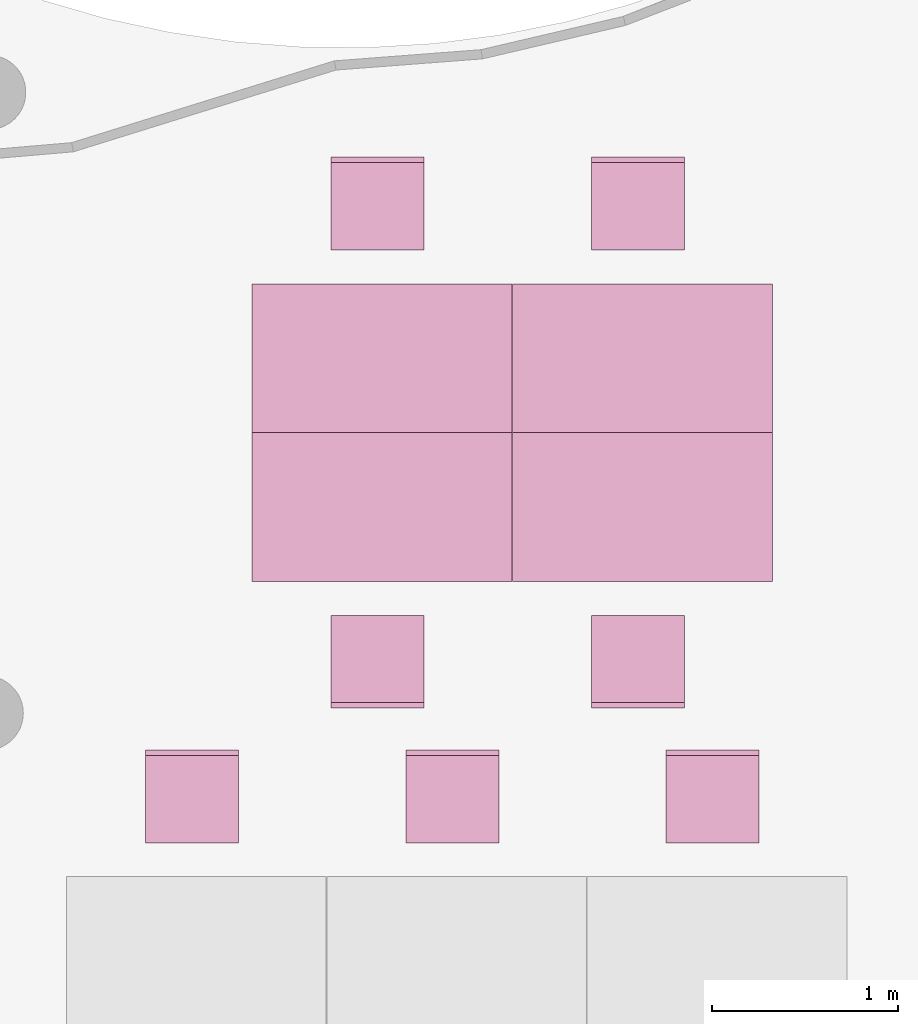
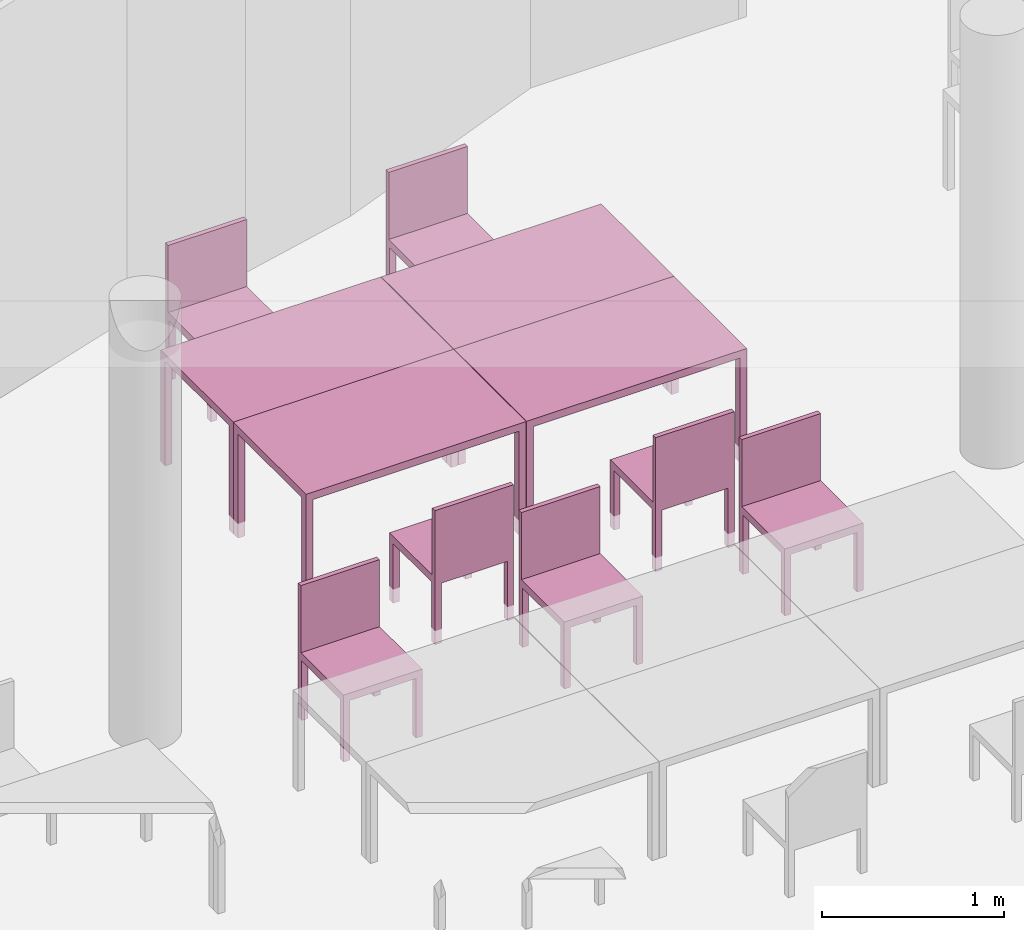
"""IFC4 building model written with IfcOpenShell, lengths in metres."""

from ifc_helpers import new_model, entity, si_unit, converted_unit, derived_unit, frame, origin, place, context, subcontext, project, spatial, faceted_brep, element, save


model = new_model("IFC4")

# Units and contexts
model_context = context("Model", 3, precision=1e-05, world=origin())
body_context = subcontext(model_context, "Body", "Model", "MODEL_VIEW")
ifc_project = project(units=[si_unit("LENGTHUNIT", "METRE"), si_unit("AREAUNIT", "SQUARE_METRE"), si_unit("VOLUMEUNIT", "CUBIC_METRE"), si_unit("MASSUNIT", "GRAM", prefix="KILO"), converted_unit("PLANEANGLEUNIT", "DEGREE", entity("IfcPlaneAngleMeasure", 0.0174532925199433), si_unit("PLANEANGLEUNIT", "RADIAN"), dimensions=[0, 0, 0, 0, 0, 0, 0]), derived_unit("THERMALTRANSMITTANCEUNIT", [(si_unit("POWERUNIT", "WATT"), 1), (si_unit("THERMODYNAMICTEMPERATUREUNIT", "KELVIN"), -1), (si_unit("LENGTHUNIT", "METRE"), -2)]), derived_unit("VOLUMETRICFLOWRATEUNIT", [(si_unit("LENGTHUNIT", "METRE"), 3), (converted_unit("TIMEUNIT", "hour", entity("IfcTimeMeasure", 3600.0), si_unit("TIMEUNIT", "SECOND"), dimensions=[0, 0, 1, 0, 0, 0, 0]), -1), (si_unit("LENGTHUNIT", "METRE"), -1)])], contexts=[model_context])

# Building, storeys
building_placement = place(None, origin())
building = spatial("IfcBuilding", under=ifc_project, at=building_placement, Name="HABITATGE PLURIFAMILIAR", CompositionType="ELEMENT")
storey_1_placement = place(building_placement, frame((0.0, 0.0, 15.28)))
storey_1 = spatial("IfcBuildingStorey", under=building, at=storey_1_placement, Name="PLANTA QUARTA", CompositionType="ELEMENT", Elevation=15.28)
storey_2_placement = place(storey_1_placement, frame((0.0, 0.0, 12.27)))
storey_2 = spatial("IfcBuildingStorey", under=storey_1, at=storey_2_placement, Name="NOU", CompositionType="PARTIAL")

# Furniture
furniture_1_placement = place(storey_2_placement, frame((412.164536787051, 18.5085148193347, -12.3699999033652)))
element("IfcFurniture", 1, at=furniture_1_placement, inside=storey_2, Name="Taula 140X80_P4", context=body_context, shape_type="Brep", body=[
    faceted_brep([(0.04375, 0.750069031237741, 0.0), (0.04375, 0.800069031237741, 0.0), (0.0, 0.800069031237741, 0.0), (0.0, 0.750069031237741, 0.0), (0.04375, 0.800069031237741, 0.7), (0.04375, 0.750069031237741, 0.7), (0.0, 0.750069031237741, 0.7), (0.0, 0.800069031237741, 0.7)], [[[0, 1, 2, 3]], [[4, 5, 6, 7]], [[1, 0, 5, 4]], [[2, 1, 4, 7]], [[3, 2, 7, 6]], [[0, 3, 6, 5]]], orient=[[False], [False], [False], [False], [False], [False]]),
    faceted_brep([(0.04375, 0.0, 0.0), (0.04375, 0.05, 0.0), (0.0, 0.05, 0.0), (0.0, 0.0, 0.0), (0.04375, 0.05, 0.7), (0.04375, 0.0, 0.7), (0.0, 0.0, 0.7), (0.0, 0.05, 0.7)], [[[0, 1, 2, 3]], [[4, 5, 6, 7]], [[1, 0, 5, 4]], [[2, 1, 4, 7]], [[3, 2, 7, 6]], [[0, 3, 6, 5]]], orient=[[False], [False], [False], [False], [False], [False]]),
    faceted_brep([(1.39732768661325, 0.0, 0.7), (1.39732768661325, 0.800069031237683, 0.7), (0.0, 0.800069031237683, 0.7), (0.0, 0.0, 0.7), (1.39732768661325, 0.800069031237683, 0.75), (1.39732768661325, 0.0, 0.75), (0.0, 0.0, 0.75), (0.0, 0.800069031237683, 0.75)], [[[0, 1, 2, 3]], [[4, 5, 6, 7]], [[1, 0, 5, 4]], [[2, 1, 4, 7]], [[3, 2, 7, 6]], [[0, 3, 6, 5]]], orient=[[False], [False], [False], [False], [False], [False]]),
    faceted_brep([(1.39732768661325, 0.750069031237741, 0.0), (1.39732768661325, 0.800069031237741, 0.0), (1.35357768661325, 0.800069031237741, 0.0), (1.35357768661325, 0.750069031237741, 0.0), (1.39732768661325, 0.800069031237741, 0.7), (1.39732768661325, 0.750069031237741, 0.7), (1.35357768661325, 0.750069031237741, 0.7), (1.35357768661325, 0.800069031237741, 0.7)], [[[0, 1, 2, 3]], [[4, 5, 6, 7]], [[1, 0, 5, 4]], [[2, 1, 4, 7]], [[3, 2, 7, 6]], [[0, 3, 6, 5]]], orient=[[False], [False], [False], [False], [False], [False]]),
    faceted_brep([(1.39732768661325, 0.0, 0.0), (1.39732768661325, 0.05, 0.0), (1.35357768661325, 0.05, 0.0), (1.35357768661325, 0.0, 0.0), (1.39732768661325, 0.05, 0.7), (1.39732768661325, 0.0, 0.7), (1.35357768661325, 0.0, 0.7), (1.35357768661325, 0.05, 0.7)], [[[0, 1, 2, 3]], [[4, 5, 6, 7]], [[1, 0, 5, 4]], [[2, 1, 4, 7]], [[3, 2, 7, 6]], [[0, 3, 6, 5]]], orient=[[False], [False], [False], [False], [False], [False]]),
])
furniture_2_placement = place(storey_2_placement, frame((413.565715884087, 18.5085148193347, -12.3699999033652)))
element("IfcFurniture", 2, at=furniture_2_placement, inside=storey_2, Name="Taula 140X80_P4", context=body_context, shape_type="Brep", body=[
    faceted_brep([(0.04375, 0.750069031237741, 0.0), (0.04375, 0.800069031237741, 0.0), (0.0, 0.800069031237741, 0.0), (0.0, 0.750069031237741, 0.0), (0.04375, 0.800069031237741, 0.7), (0.04375, 0.750069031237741, 0.7), (0.0, 0.750069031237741, 0.7), (0.0, 0.800069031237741, 0.7)], [[[0, 1, 2, 3]], [[4, 5, 6, 7]], [[1, 0, 5, 4]], [[2, 1, 4, 7]], [[3, 2, 7, 6]], [[0, 3, 6, 5]]], orient=[[False], [False], [False], [False], [False], [False]]),
    faceted_brep([(0.04375, 0.0, 0.0), (0.04375, 0.05, 0.0), (0.0, 0.05, 0.0), (0.0, 0.0, 0.0), (0.04375, 0.05, 0.7), (0.04375, 0.0, 0.7), (0.0, 0.0, 0.7), (0.0, 0.05, 0.7)], [[[0, 1, 2, 3]], [[4, 5, 6, 7]], [[1, 0, 5, 4]], [[2, 1, 4, 7]], [[3, 2, 7, 6]], [[0, 3, 6, 5]]], orient=[[False], [False], [False], [False], [False], [False]]),
    faceted_brep([(1.39732768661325, 0.0, 0.7), (1.39732768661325, 0.800069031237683, 0.7), (0.0, 0.800069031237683, 0.7), (0.0, 0.0, 0.7), (1.39732768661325, 0.800069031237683, 0.75), (1.39732768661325, 0.0, 0.75), (0.0, 0.0, 0.75), (0.0, 0.800069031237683, 0.75)], [[[0, 1, 2, 3]], [[4, 5, 6, 7]], [[1, 0, 5, 4]], [[2, 1, 4, 7]], [[3, 2, 7, 6]], [[0, 3, 6, 5]]], orient=[[False], [False], [False], [False], [False], [False]]),
    faceted_brep([(1.39732768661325, 0.750069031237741, 0.0), (1.39732768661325, 0.800069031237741, 0.0), (1.35357768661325, 0.800069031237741, 0.0), (1.35357768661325, 0.750069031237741, 0.0), (1.39732768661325, 0.800069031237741, 0.7), (1.39732768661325, 0.750069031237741, 0.7), (1.35357768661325, 0.750069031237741, 0.7), (1.35357768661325, 0.800069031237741, 0.7)], [[[0, 1, 2, 3]], [[4, 5, 6, 7]], [[1, 0, 5, 4]], [[2, 1, 4, 7]], [[3, 2, 7, 6]], [[0, 3, 6, 5]]], orient=[[False], [False], [False], [False], [False], [False]]),
    faceted_brep([(1.39732768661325, 0.0, 0.0), (1.39732768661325, 0.05, 0.0), (1.35357768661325, 0.05, 0.0), (1.35357768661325, 0.0, 0.0), (1.39732768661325, 0.05, 0.7), (1.39732768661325, 0.0, 0.7), (1.35357768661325, 0.0, 0.7), (1.35357768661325, 0.05, 0.7)], [[[0, 1, 2, 3]], [[4, 5, 6, 7]], [[1, 0, 5, 4]], [[2, 1, 4, 7]], [[3, 2, 7, 6]], [[0, 3, 6, 5]]], orient=[[False], [False], [False], [False], [False], [False]]),
])
furniture_3_placement = place(storey_2_placement, frame((413.565715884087, 19.3085838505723, -12.3699999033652)))
element("IfcFurniture", 3, at=furniture_3_placement, inside=storey_2, Name="Taula 140X80_P4", context=body_context, shape_type="Brep", body=[
    faceted_brep([(0.04375, 0.05, 0.0), (0.0, 0.05, 0.0), (0.0, 0.0, 0.0), (0.04375, 0.0, 0.0), (0.04375, 0.0, 0.7), (0.0, 0.0, 0.7), (0.0, 0.05, 0.7), (0.04375, 0.05, 0.7)], [[[0, 1, 2, 3]], [[4, 5, 6, 7]], [[3, 4, 7, 0]], [[2, 5, 4, 3]], [[1, 6, 5, 2]], [[0, 7, 6, 1]]], orient=[[False], [False], [False], [False], [False], [False]]),
    faceted_brep([(0.04375, 0.800069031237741, 0.0), (0.0, 0.800069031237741, 0.0), (0.0, 0.750069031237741, 0.0), (0.04375, 0.750069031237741, 0.0), (0.04375, 0.750069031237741, 0.7), (0.0, 0.750069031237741, 0.7), (0.0, 0.800069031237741, 0.7), (0.04375, 0.800069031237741, 0.7)], [[[0, 1, 2, 3]], [[4, 5, 6, 7]], [[3, 4, 7, 0]], [[2, 5, 4, 3]], [[1, 6, 5, 2]], [[0, 7, 6, 1]]], orient=[[False], [False], [False], [False], [False], [False]]),
    faceted_brep([(1.39732768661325, 0.800069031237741, 0.7), (0.0, 0.800069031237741, 0.7), (0.0, 0.0, 0.7), (1.39732768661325, 0.0, 0.7), (1.39732768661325, 0.0, 0.75), (0.0, 0.0, 0.75), (0.0, 0.800069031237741, 0.75), (1.39732768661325, 0.800069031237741, 0.75)], [[[0, 1, 2, 3]], [[4, 5, 6, 7]], [[3, 4, 7, 0]], [[2, 5, 4, 3]], [[1, 6, 5, 2]], [[0, 7, 6, 1]]], orient=[[False], [False], [False], [False], [False], [False]]),
    faceted_brep([(1.39732768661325, 0.05, 0.0), (1.35357768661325, 0.05, 0.0), (1.35357768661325, 0.0, 0.0), (1.39732768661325, 0.0, 0.0), (1.39732768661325, 0.0, 0.7), (1.35357768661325, 0.0, 0.7), (1.35357768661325, 0.05, 0.7), (1.39732768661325, 0.05, 0.7)], [[[0, 1, 2, 3]], [[4, 5, 6, 7]], [[3, 4, 7, 0]], [[2, 5, 4, 3]], [[1, 6, 5, 2]], [[0, 7, 6, 1]]], orient=[[False], [False], [False], [False], [False], [False]]),
    faceted_brep([(1.39732768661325, 0.800069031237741, 0.0), (1.35357768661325, 0.800069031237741, 0.0), (1.35357768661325, 0.750069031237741, 0.0), (1.39732768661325, 0.750069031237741, 0.0), (1.39732768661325, 0.750069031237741, 0.7), (1.35357768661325, 0.750069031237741, 0.7), (1.35357768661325, 0.800069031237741, 0.7), (1.39732768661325, 0.800069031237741, 0.7)], [[[0, 1, 2, 3]], [[4, 5, 6, 7]], [[3, 4, 7, 0]], [[2, 5, 4, 3]], [[1, 6, 5, 2]], [[0, 7, 6, 1]]], orient=[[False], [False], [False], [False], [False], [False]]),
])
furniture_4_placement = place(storey_2_placement, frame((412.164536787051, 19.3085838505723, -12.3699999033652)))
element("IfcFurniture", 4, at=furniture_4_placement, inside=storey_2, Name="Taula 140X80_P4", context=body_context, shape_type="Brep", body=[
    faceted_brep([(0.04375, 0.05, 0.0), (0.0, 0.05, 0.0), (0.0, 0.0, 0.0), (0.04375, 0.0, 0.0), (0.04375, 0.0, 0.7), (0.0, 0.0, 0.7), (0.0, 0.05, 0.7), (0.04375, 0.05, 0.7)], [[[0, 1, 2, 3]], [[4, 5, 6, 7]], [[3, 4, 7, 0]], [[2, 5, 4, 3]], [[1, 6, 5, 2]], [[0, 7, 6, 1]]], orient=[[False], [False], [False], [False], [False], [False]]),
    faceted_brep([(0.04375, 0.800069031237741, 0.0), (0.0, 0.800069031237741, 0.0), (0.0, 0.750069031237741, 0.0), (0.04375, 0.750069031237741, 0.0), (0.04375, 0.750069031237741, 0.7), (0.0, 0.750069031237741, 0.7), (0.0, 0.800069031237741, 0.7), (0.04375, 0.800069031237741, 0.7)], [[[0, 1, 2, 3]], [[4, 5, 6, 7]], [[3, 4, 7, 0]], [[2, 5, 4, 3]], [[1, 6, 5, 2]], [[0, 7, 6, 1]]], orient=[[False], [False], [False], [False], [False], [False]]),
    faceted_brep([(1.39732768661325, 0.800069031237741, 0.7), (0.0, 0.800069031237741, 0.7), (0.0, 0.0, 0.7), (1.39732768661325, 0.0, 0.7), (1.39732768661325, 0.0, 0.75), (0.0, 0.0, 0.75), (0.0, 0.800069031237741, 0.75), (1.39732768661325, 0.800069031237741, 0.75)], [[[0, 1, 2, 3]], [[4, 5, 6, 7]], [[3, 4, 7, 0]], [[2, 5, 4, 3]], [[1, 6, 5, 2]], [[0, 7, 6, 1]]], orient=[[False], [False], [False], [False], [False], [False]]),
    faceted_brep([(1.39732768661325, 0.05, 0.0), (1.35357768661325, 0.05, 0.0), (1.35357768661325, 0.0, 0.0), (1.39732768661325, 0.0, 0.0), (1.39732768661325, 0.0, 0.7), (1.35357768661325, 0.0, 0.7), (1.35357768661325, 0.05, 0.7), (1.39732768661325, 0.05, 0.7)], [[[0, 1, 2, 3]], [[4, 5, 6, 7]], [[3, 4, 7, 0]], [[2, 5, 4, 3]], [[1, 6, 5, 2]], [[0, 7, 6, 1]]], orient=[[False], [False], [False], [False], [False], [False]]),
    faceted_brep([(1.39732768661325, 0.800069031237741, 0.0), (1.35357768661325, 0.800069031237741, 0.0), (1.35357768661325, 0.750069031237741, 0.0), (1.39732768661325, 0.750069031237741, 0.0), (1.39732768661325, 0.750069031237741, 0.7), (1.35357768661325, 0.750069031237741, 0.7), (1.35357768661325, 0.800069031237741, 0.7), (1.39732768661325, 0.800069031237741, 0.7)], [[[0, 1, 2, 3]], [[4, 5, 6, 7]], [[3, 4, 7, 0]], [[2, 5, 4, 3]], [[1, 6, 5, 2]], [[0, 7, 6, 1]]], orient=[[False], [False], [False], [False], [False], [False]]),
])
furniture_5_placement = place(storey_2_placement, frame((412.991699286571, 17.1018108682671, -12.3640610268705)))
element("IfcFurniture", 5, at=furniture_5_placement, inside=storey_2, Name="Cadira d'Oficina_P4", context=body_context, shape_type="Brep", body=[
    faceted_brep([(0.5, 0.0, 0.399999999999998), (0.5, 0.500000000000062, 0.399999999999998), (0.0, 0.5, 0.399999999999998), (0.0, 0.0, 0.399999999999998), (0.5, 0.500000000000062, 0.449999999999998), (0.5, 0.0, 0.449999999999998), (0.0, 0.0, 0.449999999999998), (0.0, 0.5, 0.449999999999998)], [[[0, 1, 2, 3]], [[4, 5, 6, 7]], [[1, 0, 5, 4]], [[2, 1, 4, 7]], [[3, 2, 7, 6]], [[0, 3, 6, 5]]], orient=[[False], [False], [False], [False], [False], [False]]),
    faceted_brep([(0.0, 0.46, 0.0), (0.04, 0.46, 0.0), (0.04, 0.5, 0.0), (0.0, 0.5, 0.0), (0.04, 0.46, 0.4), (0.0, 0.46, 0.4), (0.0, 0.5, 0.4), (0.04, 0.5, 0.4)], [[[0, 1, 2, 3]], [[4, 5, 6, 7]], [[1, 0, 5, 4]], [[2, 1, 4, 7]], [[3, 2, 7, 6]], [[0, 3, 6, 5]]], orient=[[False], [False], [False], [False], [False], [False]]),
    faceted_brep([(0.0, 0.0, 0.0), (0.04, 0.0, 0.0), (0.04, 0.04, 0.0), (0.0, 0.04, 0.0), (0.04, 0.0, 0.4), (0.0, 0.0, 0.4), (0.0, 0.04, 0.4), (0.04, 0.04, 0.4)], [[[0, 1, 2, 3]], [[4, 5, 6, 7]], [[1, 0, 5, 4]], [[2, 1, 4, 7]], [[3, 2, 7, 6]], [[0, 3, 6, 5]]], orient=[[False], [False], [False], [False], [False], [False]]),
    faceted_brep([(0.46, 0.460000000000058, 0.0), (0.5, 0.460000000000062, 0.0), (0.5, 0.500000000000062, 0.0), (0.46, 0.500000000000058, 0.0), (0.5, 0.460000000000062, 0.4), (0.46, 0.460000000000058, 0.4), (0.46, 0.500000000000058, 0.4), (0.5, 0.500000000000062, 0.4)], [[[0, 1, 2, 3]], [[4, 5, 6, 7]], [[1, 0, 5, 4]], [[2, 1, 4, 7]], [[3, 2, 7, 6]], [[0, 3, 6, 5]]], orient=[[False], [False], [False], [False], [False], [False]]),
    faceted_brep([(0.46, 0.0, 0.0), (0.5, 0.0, 0.0), (0.5, 0.0400000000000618, 0.0), (0.46, 0.0400000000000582, 0.0), (0.5, 0.0, 0.4), (0.46, 0.0, 0.4), (0.46, 0.0400000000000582, 0.4), (0.5, 0.0400000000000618, 0.4)], [[[0, 1, 2, 3]], [[4, 5, 6, 7]], [[1, 0, 5, 4]], [[2, 1, 4, 7]], [[3, 2, 7, 6]], [[0, 3, 6, 5]]], orient=[[False], [False], [False], [False], [False], [False]]),
    faceted_brep([(0.0, 0.47, 0.45), (0.5, 0.470000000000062, 0.45), (0.5, 0.500000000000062, 0.45), (0.0, 0.5, 0.45), (0.5, 0.470000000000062, 0.9), (0.0, 0.47, 0.9), (0.0, 0.5, 0.9), (0.5, 0.500000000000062, 0.9)], [[[0, 1, 2, 3]], [[4, 5, 6, 7]], [[1, 0, 5, 4]], [[2, 1, 4, 7]], [[3, 2, 7, 6]], [[0, 3, 6, 5]]], orient=[[False], [False], [False], [False], [False], [False]]),
])
furniture_6_placement = place(storey_2_placement, frame((411.590520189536, 17.1018108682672, -12.3640610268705)))
element("IfcFurniture", 6, at=furniture_6_placement, inside=storey_2, Name="Cadira d'Oficina_P4", context=body_context, shape_type="Brep", body=[
    faceted_brep([(0.5, 0.0, 0.399999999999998), (0.5, 0.500000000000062, 0.399999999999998), (0.0, 0.5, 0.399999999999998), (0.0, 0.0, 0.399999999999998), (0.5, 0.500000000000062, 0.449999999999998), (0.5, 0.0, 0.449999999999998), (0.0, 0.0, 0.449999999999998), (0.0, 0.5, 0.449999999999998)], [[[0, 1, 2, 3]], [[4, 5, 6, 7]], [[1, 0, 5, 4]], [[2, 1, 4, 7]], [[3, 2, 7, 6]], [[0, 3, 6, 5]]], orient=[[False], [False], [False], [False], [False], [False]]),
    faceted_brep([(0.0, 0.46, 0.0), (0.04, 0.46, 0.0), (0.04, 0.5, 0.0), (0.0, 0.5, 0.0), (0.04, 0.46, 0.4), (0.0, 0.46, 0.4), (0.0, 0.5, 0.4), (0.04, 0.5, 0.4)], [[[0, 1, 2, 3]], [[4, 5, 6, 7]], [[1, 0, 5, 4]], [[2, 1, 4, 7]], [[3, 2, 7, 6]], [[0, 3, 6, 5]]], orient=[[False], [False], [False], [False], [False], [False]]),
    faceted_brep([(0.0, 0.0, 0.0), (0.04, 0.0, 0.0), (0.04, 0.04, 0.0), (0.0, 0.04, 0.0), (0.04, 0.0, 0.4), (0.0, 0.0, 0.4), (0.0, 0.04, 0.4), (0.04, 0.04, 0.4)], [[[0, 1, 2, 3]], [[4, 5, 6, 7]], [[1, 0, 5, 4]], [[2, 1, 4, 7]], [[3, 2, 7, 6]], [[0, 3, 6, 5]]], orient=[[False], [False], [False], [False], [False], [False]]),
    faceted_brep([(0.46, 0.460000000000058, 0.0), (0.5, 0.460000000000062, 0.0), (0.5, 0.500000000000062, 0.0), (0.46, 0.500000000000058, 0.0), (0.5, 0.460000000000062, 0.4), (0.46, 0.460000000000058, 0.4), (0.46, 0.500000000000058, 0.4), (0.5, 0.500000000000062, 0.4)], [[[0, 1, 2, 3]], [[4, 5, 6, 7]], [[1, 0, 5, 4]], [[2, 1, 4, 7]], [[3, 2, 7, 6]], [[0, 3, 6, 5]]], orient=[[False], [False], [False], [False], [False], [False]]),
    faceted_brep([(0.46, 0.0, 0.0), (0.5, 0.0, 0.0), (0.5, 0.0400000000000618, 0.0), (0.46, 0.0400000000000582, 0.0), (0.5, 0.0, 0.4), (0.46, 0.0, 0.4), (0.46, 0.0400000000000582, 0.4), (0.5, 0.0400000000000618, 0.4)], [[[0, 1, 2, 3]], [[4, 5, 6, 7]], [[1, 0, 5, 4]], [[2, 1, 4, 7]], [[3, 2, 7, 6]], [[0, 3, 6, 5]]], orient=[[False], [False], [False], [False], [False], [False]]),
    faceted_brep([(0.0, 0.47, 0.45), (0.5, 0.470000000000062, 0.45), (0.5, 0.500000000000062, 0.45), (0.0, 0.5, 0.45), (0.5, 0.470000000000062, 0.9), (0.0, 0.47, 0.9), (0.0, 0.5, 0.9), (0.5, 0.500000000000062, 0.9)], [[[0, 1, 2, 3]], [[4, 5, 6, 7]], [[1, 0, 5, 4]], [[2, 1, 4, 7]], [[3, 2, 7, 6]], [[0, 3, 6, 5]]], orient=[[False], [False], [False], [False], [False], [False]]),
])
furniture_7_placement = place(storey_2_placement, frame((414.391699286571, 17.1018108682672, -12.3640610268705)))
element("IfcFurniture", 7, at=furniture_7_placement, inside=storey_2, Name="Cadira d'Oficina_P4", context=body_context, shape_type="Brep", body=[
    faceted_brep([(0.5, 0.0, 0.399999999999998), (0.5, 0.500000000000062, 0.399999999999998), (0.0, 0.5, 0.399999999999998), (0.0, 0.0, 0.399999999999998), (0.5, 0.500000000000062, 0.449999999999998), (0.5, 0.0, 0.449999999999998), (0.0, 0.0, 0.449999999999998), (0.0, 0.5, 0.449999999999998)], [[[0, 1, 2, 3]], [[4, 5, 6, 7]], [[1, 0, 5, 4]], [[2, 1, 4, 7]], [[3, 2, 7, 6]], [[0, 3, 6, 5]]], orient=[[False], [False], [False], [False], [False], [False]]),
    faceted_brep([(0.0, 0.46, 0.0), (0.04, 0.46, 0.0), (0.04, 0.5, 0.0), (0.0, 0.5, 0.0), (0.04, 0.46, 0.4), (0.0, 0.46, 0.4), (0.0, 0.5, 0.4), (0.04, 0.5, 0.4)], [[[0, 1, 2, 3]], [[4, 5, 6, 7]], [[1, 0, 5, 4]], [[2, 1, 4, 7]], [[3, 2, 7, 6]], [[0, 3, 6, 5]]], orient=[[False], [False], [False], [False], [False], [False]]),
    faceted_brep([(0.0, 0.0, 0.0), (0.04, 0.0, 0.0), (0.04, 0.04, 0.0), (0.0, 0.04, 0.0), (0.04, 0.0, 0.4), (0.0, 0.0, 0.4), (0.0, 0.04, 0.4), (0.04, 0.04, 0.4)], [[[0, 1, 2, 3]], [[4, 5, 6, 7]], [[1, 0, 5, 4]], [[2, 1, 4, 7]], [[3, 2, 7, 6]], [[0, 3, 6, 5]]], orient=[[False], [False], [False], [False], [False], [False]]),
    faceted_brep([(0.46, 0.460000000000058, 0.0), (0.5, 0.460000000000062, 0.0), (0.5, 0.500000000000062, 0.0), (0.46, 0.500000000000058, 0.0), (0.5, 0.460000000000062, 0.4), (0.46, 0.460000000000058, 0.4), (0.46, 0.500000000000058, 0.4), (0.5, 0.500000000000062, 0.4)], [[[0, 1, 2, 3]], [[4, 5, 6, 7]], [[1, 0, 5, 4]], [[2, 1, 4, 7]], [[3, 2, 7, 6]], [[0, 3, 6, 5]]], orient=[[False], [False], [False], [False], [False], [False]]),
    faceted_brep([(0.46, 0.0, 0.0), (0.5, 0.0, 0.0), (0.5, 0.0400000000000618, 0.0), (0.46, 0.0400000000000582, 0.0), (0.5, 0.0, 0.4), (0.46, 0.0, 0.4), (0.46, 0.0400000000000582, 0.4), (0.5, 0.0400000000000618, 0.4)], [[[0, 1, 2, 3]], [[4, 5, 6, 7]], [[1, 0, 5, 4]], [[2, 1, 4, 7]], [[3, 2, 7, 6]], [[0, 3, 6, 5]]], orient=[[False], [False], [False], [False], [False], [False]]),
    faceted_brep([(0.0, 0.47, 0.45), (0.5, 0.470000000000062, 0.45), (0.5, 0.500000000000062, 0.45), (0.0, 0.5, 0.45), (0.5, 0.470000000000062, 0.9), (0.0, 0.47, 0.9), (0.0, 0.5, 0.9), (0.5, 0.500000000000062, 0.9)], [[[0, 1, 2, 3]], [[4, 5, 6, 7]], [[1, 0, 5, 4]], [[2, 1, 4, 7]], [[3, 2, 7, 6]], [[0, 3, 6, 5]]], orient=[[False], [False], [False], [False], [False], [False]]),
])
furniture_8_placement = place(storey_2_placement, frame((412.589227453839, 17.8263018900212, -12.3653305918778)))
element("IfcFurniture", 8, at=furniture_8_placement, inside=storey_2, Name="Cadira d'Oficina_P4", context=body_context, shape_type="Brep", body=[
    faceted_brep([(0.5, 0.5, 0.399999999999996), (0.0, 0.500000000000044, 0.399999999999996), (0.0, 0.0, 0.399999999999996), (0.5, 0.0, 0.399999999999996), (0.5, 0.0, 0.449999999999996), (0.0, 0.0, 0.449999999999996), (0.0, 0.500000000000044, 0.449999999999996), (0.5, 0.5, 0.449999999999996)], [[[0, 1, 2, 3]], [[4, 5, 6, 7]], [[3, 4, 7, 0]], [[2, 5, 4, 3]], [[1, 6, 5, 2]], [[0, 7, 6, 1]]], orient=[[False], [False], [False], [False], [False], [False]]),
    faceted_brep([(0.0, 0.0400000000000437, 0.0), (0.0, 0.0, 0.0), (0.04, 0.0, 0.0), (0.04, 0.0400000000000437, 0.0), (0.04, 0.0400000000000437, 0.4), (0.04, 0.0, 0.4), (0.0, 0.0, 0.4), (0.0, 0.0400000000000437, 0.4)], [[[0, 1, 2, 3]], [[4, 5, 6, 7]], [[3, 4, 7, 0]], [[2, 5, 4, 3]], [[1, 6, 5, 2]], [[0, 7, 6, 1]]], orient=[[False], [False], [False], [False], [False], [False]]),
    faceted_brep([(0.0, 0.500000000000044, 0.0), (0.0, 0.460000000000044, 0.0), (0.04, 0.460000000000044, 0.0), (0.04, 0.500000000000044, 0.0), (0.04, 0.500000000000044, 0.4), (0.04, 0.460000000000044, 0.4), (0.0, 0.460000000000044, 0.4), (0.0, 0.500000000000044, 0.4)], [[[0, 1, 2, 3]], [[4, 5, 6, 7]], [[3, 4, 7, 0]], [[2, 5, 4, 3]], [[1, 6, 5, 2]], [[0, 7, 6, 1]]], orient=[[False], [False], [False], [False], [False], [False]]),
    faceted_brep([(0.46, 0.04, 0.0), (0.46, 0.0, 0.0), (0.5, 0.0, 0.0), (0.5, 0.04, 0.0), (0.5, 0.04, 0.4), (0.5, 0.0, 0.4), (0.46, 0.0, 0.4), (0.46, 0.04, 0.4)], [[[0, 1, 2, 3]], [[4, 5, 6, 7]], [[3, 4, 7, 0]], [[2, 5, 4, 3]], [[1, 6, 5, 2]], [[0, 7, 6, 1]]], orient=[[False], [False], [False], [False], [False], [False]]),
    faceted_brep([(0.46, 0.5, 0.0), (0.46, 0.46, 0.0), (0.5, 0.46, 0.0), (0.5, 0.5, 0.0), (0.5, 0.5, 0.4), (0.5, 0.46, 0.4), (0.46, 0.46, 0.4), (0.46, 0.5, 0.4)], [[[0, 1, 2, 3]], [[4, 5, 6, 7]], [[3, 4, 7, 0]], [[2, 5, 4, 3]], [[1, 6, 5, 2]], [[0, 7, 6, 1]]], orient=[[False], [False], [False], [False], [False], [False]]),
    faceted_brep([(0.0, 0.0300000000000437, 0.45), (0.0, 0.0, 0.45), (0.5, 0.0, 0.45), (0.5, 0.03, 0.45), (0.5, 0.03, 0.9), (0.5, 0.0, 0.9), (0.0, 0.0, 0.9), (0.0, 0.0300000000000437, 0.9)], [[[0, 1, 2, 3]], [[4, 5, 6, 7]], [[3, 4, 7, 0]], [[2, 5, 4, 3]], [[1, 6, 5, 2]], [[0, 7, 6, 1]]], orient=[[False], [False], [False], [False], [False], [False]]),
])
furniture_9_placement = place(storey_2_placement, frame((413.990406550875, 17.8263018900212, -12.3653305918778)))
element("IfcFurniture", 9, at=furniture_9_placement, inside=storey_2, Name="Cadira d'Oficina_P4", context=body_context, shape_type="Brep", body=[
    faceted_brep([(0.5, 0.5, 0.399999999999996), (0.0, 0.500000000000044, 0.399999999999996), (0.0, 0.0, 0.399999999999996), (0.5, 0.0, 0.399999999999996), (0.5, 0.0, 0.449999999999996), (0.0, 0.0, 0.449999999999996), (0.0, 0.500000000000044, 0.449999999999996), (0.5, 0.5, 0.449999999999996)], [[[0, 1, 2, 3]], [[4, 5, 6, 7]], [[3, 4, 7, 0]], [[2, 5, 4, 3]], [[1, 6, 5, 2]], [[0, 7, 6, 1]]], orient=[[False], [False], [False], [False], [False], [False]]),
    faceted_brep([(0.0, 0.0400000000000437, 0.0), (0.0, 0.0, 0.0), (0.04, 0.0, 0.0), (0.04, 0.0400000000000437, 0.0), (0.04, 0.0400000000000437, 0.4), (0.04, 0.0, 0.4), (0.0, 0.0, 0.4), (0.0, 0.0400000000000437, 0.4)], [[[0, 1, 2, 3]], [[4, 5, 6, 7]], [[3, 4, 7, 0]], [[2, 5, 4, 3]], [[1, 6, 5, 2]], [[0, 7, 6, 1]]], orient=[[False], [False], [False], [False], [False], [False]]),
    faceted_brep([(0.0, 0.500000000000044, 0.0), (0.0, 0.460000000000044, 0.0), (0.04, 0.460000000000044, 0.0), (0.04, 0.500000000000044, 0.0), (0.04, 0.500000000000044, 0.4), (0.04, 0.460000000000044, 0.4), (0.0, 0.460000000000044, 0.4), (0.0, 0.500000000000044, 0.4)], [[[0, 1, 2, 3]], [[4, 5, 6, 7]], [[3, 4, 7, 0]], [[2, 5, 4, 3]], [[1, 6, 5, 2]], [[0, 7, 6, 1]]], orient=[[False], [False], [False], [False], [False], [False]]),
    faceted_brep([(0.46, 0.04, 0.0), (0.46, 0.0, 0.0), (0.5, 0.0, 0.0), (0.5, 0.04, 0.0), (0.5, 0.04, 0.4), (0.5, 0.0, 0.4), (0.46, 0.0, 0.4), (0.46, 0.04, 0.4)], [[[0, 1, 2, 3]], [[4, 5, 6, 7]], [[3, 4, 7, 0]], [[2, 5, 4, 3]], [[1, 6, 5, 2]], [[0, 7, 6, 1]]], orient=[[False], [False], [False], [False], [False], [False]]),
    faceted_brep([(0.46, 0.5, 0.0), (0.46, 0.46, 0.0), (0.5, 0.46, 0.0), (0.5, 0.5, 0.0), (0.5, 0.5, 0.4), (0.5, 0.46, 0.4), (0.46, 0.46, 0.4), (0.46, 0.5, 0.4)], [[[0, 1, 2, 3]], [[4, 5, 6, 7]], [[3, 4, 7, 0]], [[2, 5, 4, 3]], [[1, 6, 5, 2]], [[0, 7, 6, 1]]], orient=[[False], [False], [False], [False], [False], [False]]),
    faceted_brep([(0.0, 0.0300000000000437, 0.45), (0.0, 0.0, 0.45), (0.5, 0.0, 0.45), (0.5, 0.03, 0.45), (0.5, 0.03, 0.9), (0.5, 0.0, 0.9), (0.0, 0.0, 0.9), (0.0, 0.0300000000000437, 0.9)], [[[0, 1, 2, 3]], [[4, 5, 6, 7]], [[3, 4, 7, 0]], [[2, 5, 4, 3]], [[1, 6, 5, 2]], [[0, 7, 6, 1]]], orient=[[False], [False], [False], [False], [False], [False]]),
])
furniture_10_placement = place(storey_2_placement, frame((413.990406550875, 20.2908658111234, -12.3640610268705)))
element("IfcFurniture", 10, at=furniture_10_placement, inside=storey_2, Name="Cadira d'Oficina_P4", context=body_context, shape_type="Brep", body=[
    faceted_brep([(0.5, 0.0, 0.399999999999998), (0.5, 0.500000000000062, 0.399999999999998), (0.0, 0.5, 0.399999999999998), (0.0, 0.0, 0.399999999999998), (0.5, 0.500000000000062, 0.449999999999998), (0.5, 0.0, 0.449999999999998), (0.0, 0.0, 0.449999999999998), (0.0, 0.5, 0.449999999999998)], [[[0, 1, 2, 3]], [[4, 5, 6, 7]], [[1, 0, 5, 4]], [[2, 1, 4, 7]], [[3, 2, 7, 6]], [[0, 3, 6, 5]]], orient=[[False], [False], [False], [False], [False], [False]]),
    faceted_brep([(0.0, 0.46, 0.0), (0.04, 0.46, 0.0), (0.04, 0.5, 0.0), (0.0, 0.5, 0.0), (0.04, 0.46, 0.4), (0.0, 0.46, 0.4), (0.0, 0.5, 0.4), (0.04, 0.5, 0.4)], [[[0, 1, 2, 3]], [[4, 5, 6, 7]], [[1, 0, 5, 4]], [[2, 1, 4, 7]], [[3, 2, 7, 6]], [[0, 3, 6, 5]]], orient=[[False], [False], [False], [False], [False], [False]]),
    faceted_brep([(0.0, 0.0, 0.0), (0.04, 0.0, 0.0), (0.04, 0.04, 0.0), (0.0, 0.04, 0.0), (0.04, 0.0, 0.4), (0.0, 0.0, 0.4), (0.0, 0.04, 0.4), (0.04, 0.04, 0.4)], [[[0, 1, 2, 3]], [[4, 5, 6, 7]], [[1, 0, 5, 4]], [[2, 1, 4, 7]], [[3, 2, 7, 6]], [[0, 3, 6, 5]]], orient=[[False], [False], [False], [False], [False], [False]]),
    faceted_brep([(0.46, 0.460000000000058, 0.0), (0.5, 0.460000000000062, 0.0), (0.5, 0.500000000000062, 0.0), (0.46, 0.500000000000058, 0.0), (0.5, 0.460000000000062, 0.4), (0.46, 0.460000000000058, 0.4), (0.46, 0.500000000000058, 0.4), (0.5, 0.500000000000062, 0.4)], [[[0, 1, 2, 3]], [[4, 5, 6, 7]], [[1, 0, 5, 4]], [[2, 1, 4, 7]], [[3, 2, 7, 6]], [[0, 3, 6, 5]]], orient=[[False], [False], [False], [False], [False], [False]]),
    faceted_brep([(0.46, 0.0, 0.0), (0.5, 0.0, 0.0), (0.5, 0.0400000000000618, 0.0), (0.46, 0.0400000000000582, 0.0), (0.5, 0.0, 0.4), (0.46, 0.0, 0.4), (0.46, 0.0400000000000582, 0.4), (0.5, 0.0400000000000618, 0.4)], [[[0, 1, 2, 3]], [[4, 5, 6, 7]], [[1, 0, 5, 4]], [[2, 1, 4, 7]], [[3, 2, 7, 6]], [[0, 3, 6, 5]]], orient=[[False], [False], [False], [False], [False], [False]]),
    faceted_brep([(0.0, 0.47, 0.45), (0.5, 0.470000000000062, 0.45), (0.5, 0.500000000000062, 0.45), (0.0, 0.5, 0.45), (0.5, 0.470000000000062, 0.9), (0.0, 0.47, 0.9), (0.0, 0.5, 0.9), (0.5, 0.500000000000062, 0.9)], [[[0, 1, 2, 3]], [[4, 5, 6, 7]], [[1, 0, 5, 4]], [[2, 1, 4, 7]], [[3, 2, 7, 6]], [[0, 3, 6, 5]]], orient=[[False], [False], [False], [False], [False], [False]]),
])
furniture_11_placement = place(storey_2_placement, frame((412.589227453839, 20.2908658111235, -12.3640610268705)))
element("IfcFurniture", 11, at=furniture_11_placement, inside=storey_2, Name="Cadira d'Oficina_P4", context=body_context, shape_type="Brep", body=[
    faceted_brep([(0.5, 0.0, 0.399999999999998), (0.5, 0.500000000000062, 0.399999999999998), (0.0, 0.5, 0.399999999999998), (0.0, 0.0, 0.399999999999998), (0.5, 0.500000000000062, 0.449999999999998), (0.5, 0.0, 0.449999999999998), (0.0, 0.0, 0.449999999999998), (0.0, 0.5, 0.449999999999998)], [[[0, 1, 2, 3]], [[4, 5, 6, 7]], [[1, 0, 5, 4]], [[2, 1, 4, 7]], [[3, 2, 7, 6]], [[0, 3, 6, 5]]], orient=[[False], [False], [False], [False], [False], [False]]),
    faceted_brep([(0.0, 0.46, 0.0), (0.04, 0.46, 0.0), (0.04, 0.5, 0.0), (0.0, 0.5, 0.0), (0.04, 0.46, 0.4), (0.0, 0.46, 0.4), (0.0, 0.5, 0.4), (0.04, 0.5, 0.4)], [[[0, 1, 2, 3]], [[4, 5, 6, 7]], [[1, 0, 5, 4]], [[2, 1, 4, 7]], [[3, 2, 7, 6]], [[0, 3, 6, 5]]], orient=[[False], [False], [False], [False], [False], [False]]),
    faceted_brep([(0.0, 0.0, 0.0), (0.04, 0.0, 0.0), (0.04, 0.04, 0.0), (0.0, 0.04, 0.0), (0.04, 0.0, 0.4), (0.0, 0.0, 0.4), (0.0, 0.04, 0.4), (0.04, 0.04, 0.4)], [[[0, 1, 2, 3]], [[4, 5, 6, 7]], [[1, 0, 5, 4]], [[2, 1, 4, 7]], [[3, 2, 7, 6]], [[0, 3, 6, 5]]], orient=[[False], [False], [False], [False], [False], [False]]),
    faceted_brep([(0.46, 0.460000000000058, 0.0), (0.5, 0.460000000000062, 0.0), (0.5, 0.500000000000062, 0.0), (0.46, 0.500000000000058, 0.0), (0.5, 0.460000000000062, 0.4), (0.46, 0.460000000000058, 0.4), (0.46, 0.500000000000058, 0.4), (0.5, 0.500000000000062, 0.4)], [[[0, 1, 2, 3]], [[4, 5, 6, 7]], [[1, 0, 5, 4]], [[2, 1, 4, 7]], [[3, 2, 7, 6]], [[0, 3, 6, 5]]], orient=[[False], [False], [False], [False], [False], [False]]),
    faceted_brep([(0.46, 0.0, 0.0), (0.5, 0.0, 0.0), (0.5, 0.0400000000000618, 0.0), (0.46, 0.0400000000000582, 0.0), (0.5, 0.0, 0.4), (0.46, 0.0, 0.4), (0.46, 0.0400000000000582, 0.4), (0.5, 0.0400000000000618, 0.4)], [[[0, 1, 2, 3]], [[4, 5, 6, 7]], [[1, 0, 5, 4]], [[2, 1, 4, 7]], [[3, 2, 7, 6]], [[0, 3, 6, 5]]], orient=[[False], [False], [False], [False], [False], [False]]),
    faceted_brep([(0.0, 0.47, 0.45), (0.5, 0.470000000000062, 0.45), (0.5, 0.500000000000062, 0.45), (0.0, 0.5, 0.45), (0.5, 0.470000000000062, 0.9), (0.0, 0.47, 0.9), (0.0, 0.5, 0.9), (0.5, 0.500000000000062, 0.9)], [[[0, 1, 2, 3]], [[4, 5, 6, 7]], [[1, 0, 5, 4]], [[2, 1, 4, 7]], [[3, 2, 7, 6]], [[0, 3, 6, 5]]], orient=[[False], [False], [False], [False], [False], [False]]),
])

save(model, "model.ifc")
